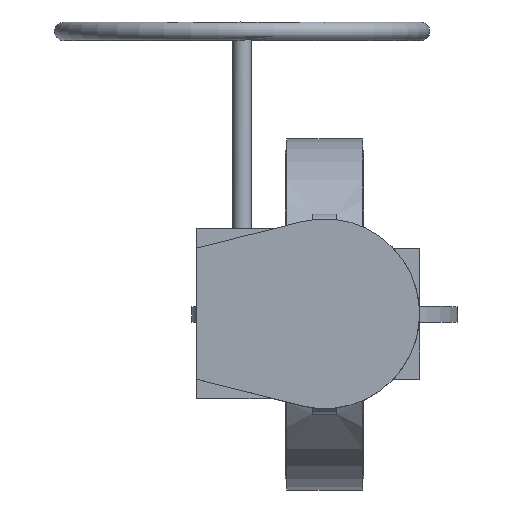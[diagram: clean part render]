
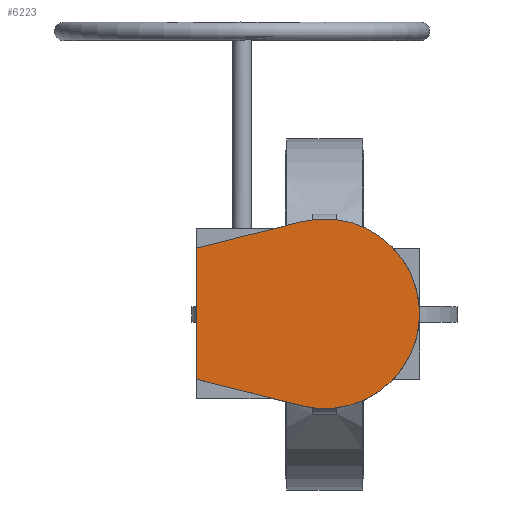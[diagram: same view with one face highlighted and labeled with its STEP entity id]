
A CAD part, top view. The second image highlights one B-rep face of the part: STEP entity #6223.
In plain terms, the highlighted planar face has unit normal (0, 0, 1).
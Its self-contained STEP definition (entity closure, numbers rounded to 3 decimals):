
#6223=ADVANCED_FACE('',(#11723),#11725,.T.);
#11723=FACE_BOUND('',#11724,.T.);
#11724=EDGE_LOOP('',(#15783,#15784,#15785,#15786));
#11725=PLANE('',#11726);
#11726=AXIS2_PLACEMENT_3D('',#11727,#11728,#11729);
#11727=CARTESIAN_POINT('',(0.,0.,329.));
#11728=DIRECTION('',(0.,0.,1.));
#11729=DIRECTION('',(0.,1.,0.));
#15783=ORIENTED_EDGE('',*,*,#17834,.T.);
#15784=ORIENTED_EDGE('',*,*,#17830,.T.);
#15785=ORIENTED_EDGE('',*,*,#17823,.T.);
#15786=ORIENTED_EDGE('',*,*,#17818,.T.);
#17818=EDGE_CURVE('',#21126,#21124,#21127,.T.);
#17823=EDGE_CURVE('',#21134,#21126,#21135,.T.);
#17830=EDGE_CURVE('',#21147,#21134,#21148,.T.);
#17834=EDGE_CURVE('',#21124,#21147,#21153,.T.);
#21124=VERTEX_POINT('',#30615);
#21126=VERTEX_POINT('',#30619);
#21127=LINE('',#30620,#30621);
#21134=VERTEX_POINT('',#30637);
#21135=LINE('',#30638,#30639);
#21147=VERTEX_POINT('',#30664);
#21148=LINE('',#30665,#30666);
#21153=CIRCLE('',#30678,72.5);
#30615=CARTESIAN_POINT('',(-17.879,-70.261,329.));
#30619=CARTESIAN_POINT('',(-97.5,-50.,329.));
#30620=CARTESIAN_POINT('',(-97.5,-50.,329.));
#30621=VECTOR('',#30622,1.);
#30622=DIRECTION('',(0.969,-0.247,0.));
#30637=CARTESIAN_POINT('',(-97.5,50.,329.));
#30638=CARTESIAN_POINT('',(-97.5,50.,329.));
#30639=VECTOR('',#30640,1.);
#30640=DIRECTION('',(0.,-1.,0.));
#30664=CARTESIAN_POINT('',(-17.879,70.261,329.));
#30665=CARTESIAN_POINT('',(-17.879,70.261,329.));
#30666=VECTOR('',#30667,1.);
#30667=DIRECTION('',(-0.969,-0.247,0.));
#30678=AXIS2_PLACEMENT_3D('',#30679,#30680,#30681);
#30679=CARTESIAN_POINT('',(0.,0.,329.));
#30680=DIRECTION('',(0.,0.,1.));
#30681=DIRECTION('',(-0.247,-0.969,0.));
